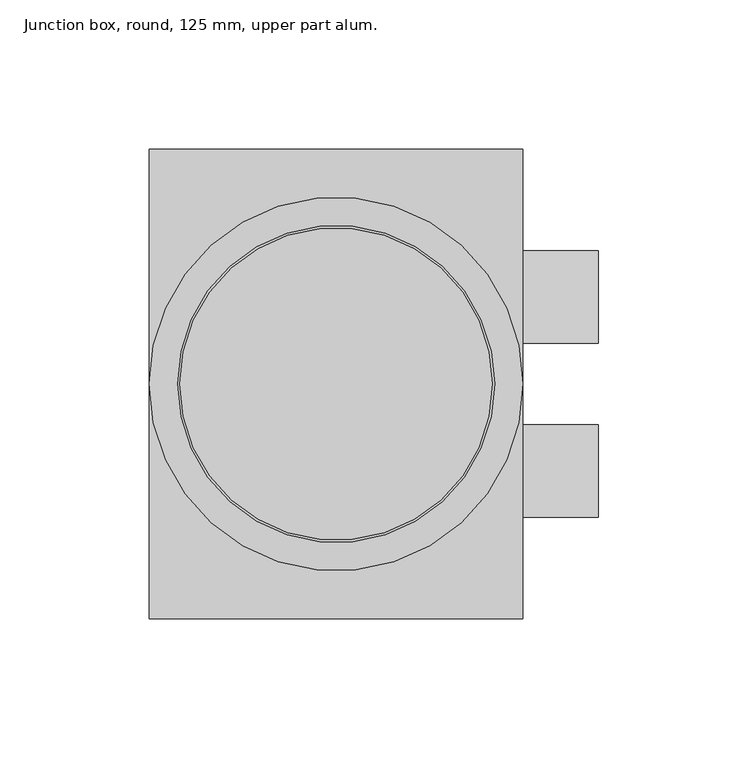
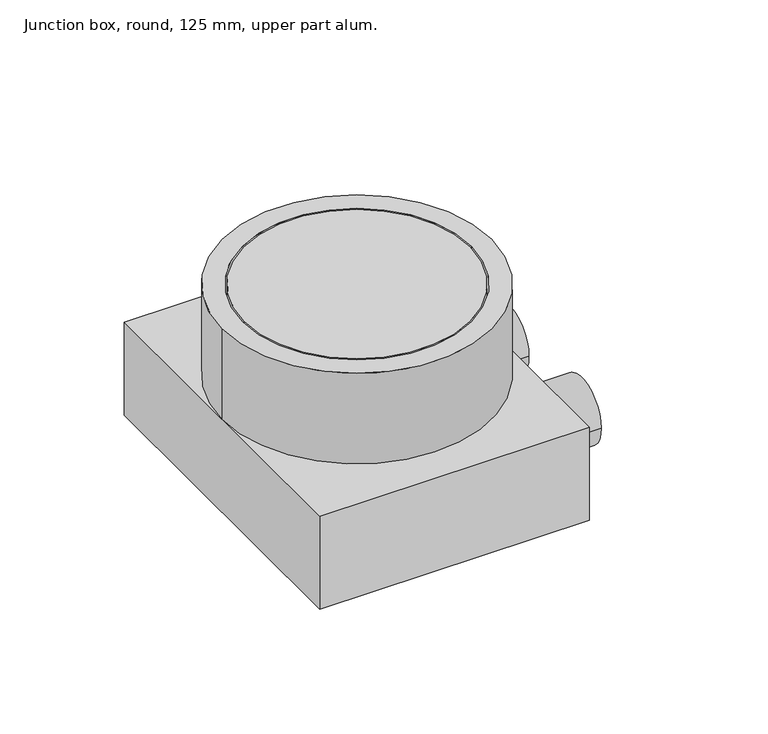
"""IFC4 building model written with IfcOpenShell, lengths in millimetres: proxy geometry, Electrical_Installation_Hager_VE-EE_Junction-box-round : Junction box, round, 125 mm, upper part alum.."""

import ifcopenshell
import ifcopenshell.guid

model = None  # the IFC model being written
_history = None  # IfcOwnerHistory: only IFC2X3 demands one
_inside = {}  # id of a spatial element -> (the spatial element, [elements in it])
_under = {}  # id of a project, library or spatial element -> (it, [spatial elements below it])
_declared = {}  # id of a project -> (the project, [libraries it declares])
_typed = {}  # id of a type object -> (the type object, [elements of that type])
_made_of = {}  # id of a material, layer set ... -> (it, [elements and type objects made of it])


def new_model(schema):
    """Start an empty IFC model of exactly this schema.

    Asked for "IFC4X3", IfcOpenShell would pick the latest addendum, in which some entities
    have other attributes; the version numbers below select the first issue.
    IFC2X3 requires an IfcOwnerHistory on every rooted entity: one is made here for all.
    """
    global model, _history
    if schema == "IFC4X3":
        model = ifcopenshell.file(schema_version=(4, 3, 0, 0))
    else:
        model = ifcopenshell.file(schema=schema)
    _inside.clear()
    _under.clear()
    _declared.clear()
    _typed.clear()
    _made_of.clear()
    _history = None
    if model.schema == "IFC2X3":
        org = make("IfcOrganization", Name="unknown")
        user = make(
            "IfcPersonAndOrganization",
            ThePerson=make("IfcPerson", FamilyName="unknown"),
            TheOrganization=org,
        )
        app = make(
            "IfcApplication",
            ApplicationDeveloper=org,
            Version="unknown",
            ApplicationFullName="unknown",
            ApplicationIdentifier="unknown",
        )
        _history = make(
            "IfcOwnerHistory",
            OwningUser=user,
            OwningApplication=app,
            ChangeAction="ADDED",
            CreationDate=0,
        )
    return model


def make(cls, **values):
    """One entity of the class cls with the attributes given. An attribute that is None is left unset."""
    return model.create_entity(
        cls, **{name: value for name, value in values.items() if value is not None}
    )


def rooted(cls, **values):
    """An entity with a GlobalId (a new one), such as an element, a storey or a relation."""
    return make(cls, GlobalId=ifcopenshell.guid.new(), OwnerHistory=_history, **values)


def si_unit(unit_type, name, prefix=None):
    """IfcSIUnit, for example si_unit("LENGTHUNIT", "METRE", prefix="MILLI")."""
    return make("IfcSIUnit", UnitType=unit_type, Prefix=prefix, Name=name)


def assignment(units):
    """IfcUnitAssignment: the units of a project."""
    return None if units is None else make("IfcUnitAssignment", Units=units)


def point(xyz):
    """IfcCartesianPoint."""
    return None if xyz is None else make("IfcCartesianPoint", Coordinates=xyz)


def direction(xyz):
    """IfcDirection."""
    return None if xyz is None else make("IfcDirection", DirectionRatios=xyz)


def frame(location, z_axis=None, x_axis=None):
    """IfcAxis2Placement3D, a coordinate frame: its origin and axes. An axis left out is left unset."""
    return make(
        "IfcAxis2Placement3D",
        Location=point(location),
        Axis=direction(z_axis),
        RefDirection=direction(x_axis),
    )


def frame_2d(location, x_axis=None):
    """IfcAxis2Placement2D, a coordinate frame in the plane: its origin and x axis."""
    return make(
        "IfcAxis2Placement2D", Location=point(location), RefDirection=direction(x_axis)
    )


def origin():
    """The frame at (0, 0, 0) with its axes left unset."""
    return frame((0.0, 0.0, 0.0))


def origin_2d():
    """The frame at (0, 0) in the plane with its x axis left unset."""
    return frame_2d((0.0, 0.0))


def place(relative_to, where):
    """IfcLocalPlacement: puts the frame where relative to a parent placement (None: the world)."""
    return make(
        "IfcLocalPlacement", PlacementRelTo=relative_to, RelativePlacement=where
    )


def context(
    kind, dimensions, precision=None, world=None, true_north=None, identifier=None
):
    """IfcGeometricRepresentationContext, for example the 3D "Model" context."""
    return make(
        "IfcGeometricRepresentationContext",
        ContextIdentifier=identifier,
        ContextType=kind,
        CoordinateSpaceDimension=dimensions,
        Precision=precision,
        WorldCoordinateSystem=world,
        TrueNorth=true_north,
    )


def project(units=None, contexts=None):
    """IfcProject with its units and contexts."""
    return rooted(
        "IfcProject",
        Name="project",
        RepresentationContexts=contexts,
        UnitsInContext=assignment(units),
    )


def spatial(cls, under=None, at=None, **own):
    """A site, building, storey or space (cls), placed at a placement, below another one or the project."""
    s = rooted(cls, ObjectPlacement=at, **own)
    if under is not None:
        _under.setdefault(under.id(), (under, []))[1].append(s)
    return s


def polyline(points):
    """IfcPolyline through the points."""
    return make("IfcPolyline", Points=[point(p) for p in points])


def circle_curve(where, radius):
    """IfcCircle in the frame where."""
    return make("IfcCircle", Position=where, Radius=radius)


def trimmed(basis, trim1, trim2, sense, master):
    """IfcTrimmedCurve: the piece of a basis curve between two trims."""
    return make(
        "IfcTrimmedCurve",
        BasisCurve=basis,
        Trim1=trim1,
        Trim2=trim2,
        SenseAgreement=sense,
        MasterRepresentation=master,
    )


def segment(curve, same_sense, transition):
    """IfcCompositeCurveSegment."""
    return make(
        "IfcCompositeCurveSegment",
        Transition=transition,
        SameSense=same_sense,
        ParentCurve=curve,
    )


def composite_curve(segments, self_intersect=None):
    """IfcCompositeCurve: segments joined end to end."""
    return make("IfcCompositeCurve", Segments=segments, SelfIntersect=self_intersect)


def outline(outer, holes=None, kind="AREA"):
    """IfcArbitraryClosedProfileDef: a profile drawn as a closed curve; with holes, ...WithVoids."""
    if holes is None:
        return make("IfcArbitraryClosedProfileDef", ProfileType=kind, OuterCurve=outer)
    return make(
        "IfcArbitraryProfileDefWithVoids",
        ProfileType=kind,
        OuterCurve=outer,
        InnerCurves=holes,
    )


def extrude(swept, where, along, depth):
    """IfcExtrudedAreaSolid: the profile swept, set in the frame where, extruded along a direction by depth."""
    return make(
        "IfcExtrudedAreaSolid",
        SweptArea=swept,
        Position=where,
        ExtrudedDirection=direction(along),
        Depth=depth,
    )


def shape(context_of_items, identifier, shape_type, items):
    """IfcShapeRepresentation: the items that make up one representation, for example the "Body"."""
    return make(
        "IfcShapeRepresentation",
        ContextOfItems=context_of_items,
        RepresentationIdentifier=identifier,
        RepresentationType=shape_type,
        Items=items,
    )


def source(mapping_origin, context_of_items, identifier, shape_type, items):
    """IfcRepresentationMap: a shape defined once, which mapped items show again and again."""
    return make(
        "IfcRepresentationMap",
        MappingOrigin=mapping_origin,
        MappedRepresentation=shape(context_of_items, identifier, shape_type, items),
    )


def transform(
    local_origin,
    x_axis=None,
    y_axis=None,
    z_axis=None,
    scale=None,
    scale2=None,
    scale3=None,
    uniform=True,
):
    """IfcCartesianTransformationOperator3D, or its non-uniform kind. x_axis, y_axis, z_axis: its Axis1, 2, 3."""
    if uniform:
        return make(
            "IfcCartesianTransformationOperator3D",
            Axis1=direction(x_axis),
            Axis2=direction(y_axis),
            LocalOrigin=point(local_origin),
            Scale=scale,
            Axis3=direction(z_axis),
        )
    return make(
        "IfcCartesianTransformationOperator3DnonUniform",
        Axis1=direction(x_axis),
        Axis2=direction(y_axis),
        LocalOrigin=point(local_origin),
        Scale=scale,
        Axis3=direction(z_axis),
        Scale2=scale2,
        Scale3=scale3,
    )


def mapped(mapping_source, mapping_target):
    """IfcMappedItem: shows the shape of a source again, moved by a transform."""
    return make(
        "IfcMappedItem", MappingSource=mapping_source, MappingTarget=mapping_target
    )


def made_of(thing, what):
    """Note that an element or type object is made of a material, layer set ...; save() writes the relation."""
    if what is not None:
        _made_of.setdefault(what.id(), (what, []))[1].append(thing)
    return thing


def element(
    cls,
    number,
    at=None,
    inside=None,
    cuts=None,
    type_object=None,
    material=None,
    context=None,
    identifier="Body",
    shape_type=None,
    held_by="IfcProductDefinitionShape",
    body=None,
    shapes=None,
    **own,
):
    """One element of the class cls, such as IfcWall. Its Tag is "e" and its number.

    at: its placement. inside: the storey or other place that contains it. cuts: it is an
    opening in that element (IfcRelVoidsElement). A single representation is given by context,
    identifier, shape_type and body (its items); several are given by shapes. held_by: the class
    of the entity that holds the representations. save() writes the other relations.
    """
    e = rooted(cls, Tag="e%d" % number, ObjectPlacement=at, **own)
    if body is not None:
        shapes = [shape(context, identifier, shape_type, body)]
    if shapes is not None:
        e.Representation = make(held_by, Representations=shapes)
    if inside is not None:
        _inside.setdefault(inside.id(), (inside, []))[1].append(e)
    if cuts is not None:
        rooted(
            "IfcRelVoidsElement", RelatingBuildingElement=cuts, RelatedOpeningElement=e
        )
    if type_object is not None:
        _typed.setdefault(type_object.id(), (type_object, []))[1].append(e)
    return made_of(e, material)


def aggregate(whole, parts):
    """IfcRelAggregates: a whole, such as a stair, and the parts it consists of."""
    return rooted("IfcRelAggregates", RelatingObject=whole, RelatedObjects=parts)


def save(model, path):
    """Write the relations noted so far, then the file.

    IfcRelAggregates (storeys below a building ...), IfcRelContainedInSpatialStructure (elements
    in a storey), IfcRelDefinesByType, IfcRelAssociatesMaterial and IfcRelDeclares: one each for
    every whole, place, type object, material and project.
    """
    for whole, parts in _under.values():
        aggregate(whole, parts)
    for where, things in _inside.values():
        rooted(
            "IfcRelContainedInSpatialStructure",
            RelatedElements=things,
            RelatingStructure=where,
        )
    for kind, things in _typed.values():
        rooted("IfcRelDefinesByType", RelatedObjects=things, RelatingType=kind)
    for what, things in _made_of.values():
        rooted("IfcRelAssociatesMaterial", RelatedObjects=things, RelatingMaterial=what)
    for by, libraries in _declared.values():
        rooted("IfcRelDeclares", RelatingContext=by, RelatedDefinitions=libraries)
    model.write(path)


def junction_box_round_125_mm_upper_part_alum_29b8801a(model_context):
    return source(origin(), model_context, "Body", "SweptSolid", [
        extrude(outline(composite_curve([segment(trimmed(circle_curve(origin_2d(), 45.0), [point((-45.0, 0.0))], [point((45.0, 0.0))], False, "CARTESIAN"), True, "CONTINUOUS"), segment(trimmed(circle_curve(origin_2d(), 45.0), [point((45.0, 0.0))], [point((-45.0, 0.0))], False, "CARTESIAN"), True, "CONTINUOUS")], self_intersect=False)), frame((0.0, 0.0, -44.4446396), z_axis=(0.0, 0.0, 1.0), x_axis=(1.0, 0.0, 0.0)), (0.0, 0.0, 1.0), 22.2223198),
        extrude(outline(composite_curve([segment(trimmed(circle_curve(frame_2d((-29.0988767, -74.4100046)), 15.5), [point((-44.5988767, -74.4100046))], [point((-13.5988767, -74.4100046))], False, "CARTESIAN"), True, "CONTINUOUS"), segment(trimmed(circle_curve(frame_2d((-29.0988767, -74.4100046)), 15.5), [point((-13.5988767, -74.4100046))], [point((-44.5988767, -74.4100046))], False, "CARTESIAN"), True, "CONTINUOUS")], self_intersect=False)), frame((62.5, 0.0, 0.0), z_axis=(1.0, 0.0, 0.0), x_axis=(0.0, 1.0, 0.0)), (0.0, 0.0, 1.0), 25.2),
        extrude(outline(composite_curve([segment(trimmed(circle_curve(frame_2d((29.0988767, -74.4100046)), 15.5), [point((13.5988767, -74.4100046))], [point((44.5988767, -74.4100046))], False, "CARTESIAN"), True, "CONTINUOUS"), segment(trimmed(circle_curve(frame_2d((29.0988767, -74.4100046)), 15.5), [point((44.5988767, -74.4100046))], [point((13.5988767, -74.4100046))], False, "CARTESIAN"), True, "CONTINUOUS")], self_intersect=False)), frame((62.5, 0.0, 0.0), z_axis=(1.0, 0.0, 0.0), x_axis=(0.0, 1.0, 0.0)), (0.0, 0.0, 1.0), 25.2),
        extrude(outline(composite_curve([segment(trimmed(circle_curve(origin_2d(), 52.2738495), [point((-52.2738495, 0.0))], [point((52.2738495, 0.0))], False, "CARTESIAN"), True, "CONTINUOUS"), segment(trimmed(circle_curve(origin_2d(), 52.2738495), [point((52.2738495, 0.0))], [point((-52.2738495, 0.0))], False, "CARTESIAN"), True, "CONTINUOUS")], self_intersect=False)), frame((0.0, 0.0, -44.4446396), z_axis=(0.0, 0.0, 1.0), x_axis=(1.0, 0.0, 0.0)), (0.0, 0.0, 1.0), 44.4446396),
        extrude(outline(composite_curve([segment(trimmed(circle_curve(origin_2d(), 62.5), [point((-62.5, 0.0))], [point((62.5, 0.0))], False, "CARTESIAN"), True, "CONTINUOUS"), segment(trimmed(circle_curve(origin_2d(), 62.5), [point((62.5, 0.0))], [point((-62.5, 0.0))], False, "CARTESIAN"), True, "CONTINUOUS")], self_intersect=False), holes=[composite_curve([segment(trimmed(circle_curve(origin_2d(), 53.0323187), [point((-53.0323187, 0.0))], [point((53.0323187, 0.0))], True, "CARTESIAN"), True, "CONTINUOUS"), segment(trimmed(circle_curve(origin_2d(), 53.0323187), [point((53.0323187, 0.0))], [point((-53.0323187, 0.0))], True, "CARTESIAN"), True, "CONTINUOUS")], self_intersect=False)]), frame((0.0, 0.0, -44.4446396), z_axis=(0.0, 0.0, 1.0), x_axis=(1.0, 0.0, 0.0)), (0.0, 0.0, 1.0), 44.4446396),
        extrude(outline(polyline([(62.5, 78.5), (62.5, -78.5), (-62.5, -78.5), (-62.5, 78.5), (62.5, 78.5)])), frame((0.0, 0.0, -90.0), z_axis=(0.0, 0.0, 1.0), x_axis=(1.0, 0.0, 0.0)), (0.0, 0.0, 1.0), 45.5553604),
    ])


if __name__ == "__main__":
    model = new_model("IFC4")
    model_context = context("Model", 3, world=origin())
    ifc_project = project(units=[si_unit("LENGTHUNIT", "METRE", prefix="MILLI")], contexts=[model_context])
    site = spatial("IfcSite", under=ifc_project)
    building = spatial("IfcBuilding", under=site)
    placement = place(None, origin())
    junction_box_round_125_mm_upper_part_alum_shape = junction_box_round_125_mm_upper_part_alum_29b8801a(model_context)
    element("IfcBuildingElementProxy", 1, Name="Electrical_Installation_Hager_VE-EE_Junction-box-round : Junction box, round, 125 mm, upper part alum.", ObjectType="Electrical_Installation_Hager_VE-EE_Junction-box-round : Junction box, round, 125 mm, upper part alum.", at=placement, inside=building, context=model_context, shape_type="MappedRepresentation", body=[
        mapped(junction_box_round_125_mm_upper_part_alum_shape, transform((0.0, 0.0, 0.0), x_axis=(1.0, 0.0, 0.0), y_axis=(0.0, 1.0, 0.0), z_axis=(0.0, 0.0, 1.0))),
    ])
    save(model, "model.ifc")
